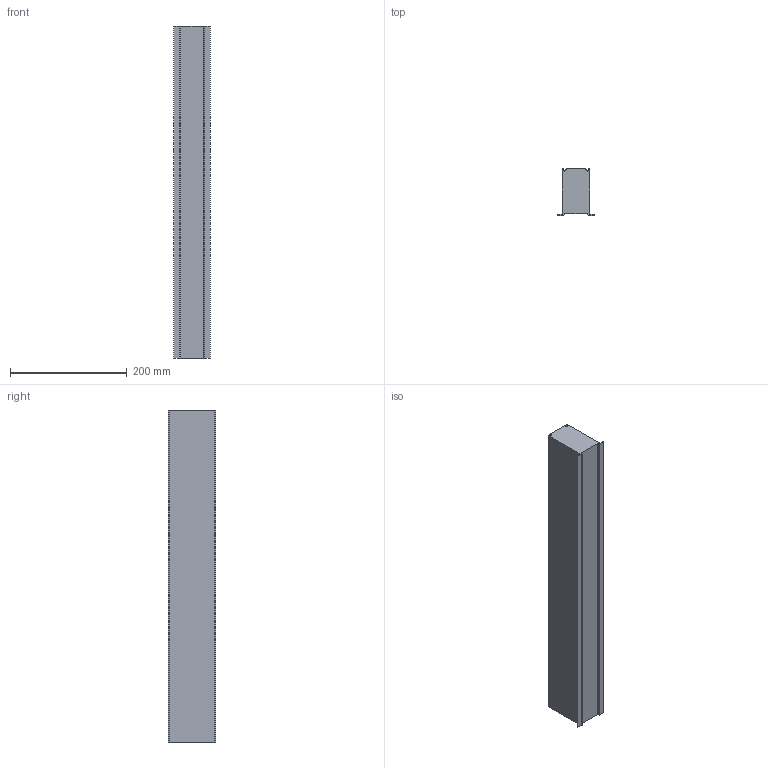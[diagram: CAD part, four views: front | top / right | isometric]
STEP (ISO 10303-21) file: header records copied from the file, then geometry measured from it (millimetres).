
FILE_DESCRIPTION (( 'STEP AP203' ), '1' );
FILE_NAME ('mLight_Swerve 47 Recessed_L568 mm.STEP', '2020-04-01T09:43:54', ( '' ), ( '' ), 'SwSTEP 2.0', 'SolidWorks 2017', '' );
FILE_SCHEMA (( 'CONFIG_CONTROL_DESIGN' ));
Length unit declared in the file: millimetre
Products named in the file (1): mLight_Swerve 47 Recessed_L568 mm
Bounding box: 63 x 80.63 x 568 mm (x, y, z)
Volume: 2062404.6 mm3; surface area: 182212 mm2
Topology: 1 solids, 1 shells, 54 faces, 156 edges, 104 vertices
Faces by surface type: cylinder 28, plane 26
Entity records: 1873 total; most frequent: DIRECTION 322, CARTESIAN_POINT 315, ORIENTED_EDGE 312, EDGE_CURVE 156, AXIS2_PLACEMENT_3D 111, VERTEX_POINT 104, VECTOR 100, LINE 100
